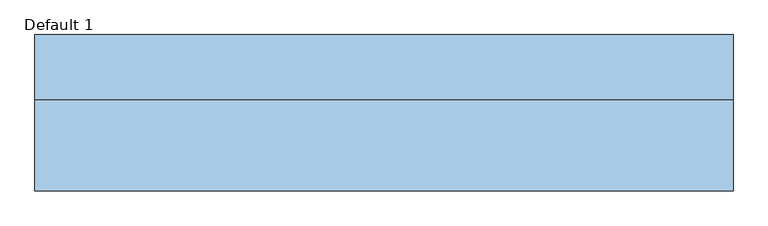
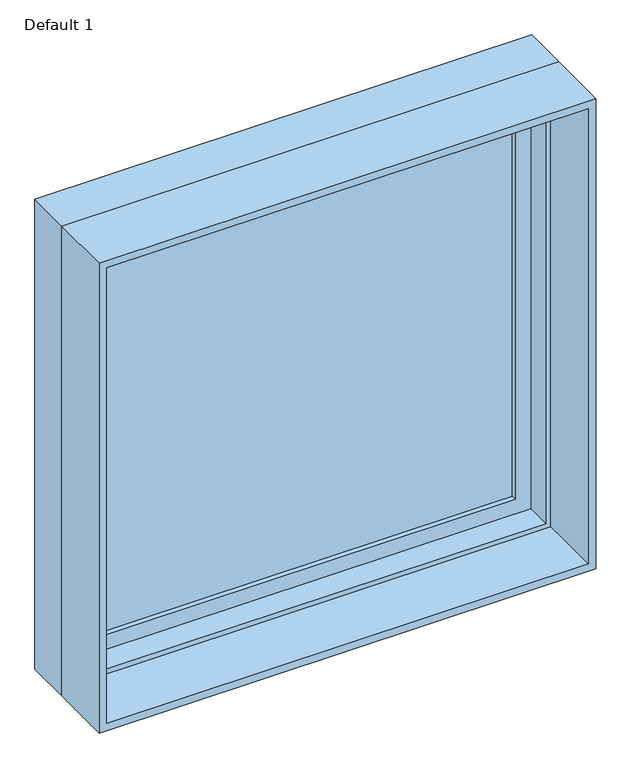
"""IFC4 building model written with IfcOpenShell, lengths in millimetres: window geometry, Planitar-Casement-Single_Left : Default 1."""

from ifc_helpers import new_model, si_unit, frame, origin, place, context, project, spatial, polyline, outline, extrude, faceted_brep, source, transform, mapped, element, save


def default_1_a765227e(model_context):
    return source(origin(), model_context, "Body", "SolidModel", [
        extrude(outline(polyline([(539.75, 127.0), (539.75, 120.65), (-539.75, 120.65), (-539.75, 127.0), (539.75, 127.0)])), frame((0.0, 0.0, 984.25), z_axis=(0.0, 0.0, 1.0), x_axis=(1.0, 0.0, 0.0)), (0.0, 0.0, 1.0), 1079.5),
        extrude(outline(polyline([(-539.75, 107.95), (-539.75, 114.3), (539.75, 114.3), (539.75, 107.95), (-539.75, 107.95)])), frame((0.0, 0.0, 984.25), z_axis=(0.0, 0.0, 1.0), x_axis=(1.0, 0.0, 0.0)), (0.0, 0.0, 1.0), 1079.5),
        extrude(outline(polyline([(2120.9, -596.9), (927.1, -596.9), (927.1, 596.9), (2120.9, 596.9), (2120.9, -596.9)]), holes=[polyline([(2063.75, 539.75), (984.25, 539.75), (984.25, -539.75), (2063.75, -539.75), (2063.75, 539.75)])]), frame((0.0, 95.25, 0.0), z_axis=(0.0, 1.0, 0.0), x_axis=(0.0, 0.0, 1.0)), (0.0, 0.0, 1.0), 44.45),
        extrude(outline(polyline([(2133.6, -609.6), (914.4, -609.6), (914.4, 609.6), (2133.6, 609.6), (2133.6, -609.6)]), holes=[polyline([(2114.55, 590.55), (933.45, 590.55), (933.45, -590.55), (2114.55, -590.55), (2114.55, 590.55)])]), frame((0.0, -127.0, 0.0), z_axis=(0.0, 1.0, 0.0), x_axis=(0.0, 0.0, 1.0)), (0.0, 0.0, 1.0), 158.75),
        faceted_brep([(577.85, 95.25, 2101.85), (577.85, 31.75, 2101.85), (-577.85, 31.75, 2101.85), (-577.85, 95.25, 2101.85), (596.9, 146.05, 2120.9), (596.9, 95.25, 2120.9), (-596.9, 95.25, 2120.9), (-596.9, 146.05, 2120.9), (609.6, 31.75, 2133.6), (609.6, 146.05, 2133.6), (-609.6, 146.05, 2133.6), (-609.6, 31.75, 2133.6), (-577.85, 31.75, 946.15), (-577.85, 95.25, 946.15), (-596.9, 95.25, 927.1), (-596.9, 146.05, 927.1), (-609.6, 146.05, 914.4), (-609.6, 31.75, 914.4), (577.85, 31.75, 946.15), (577.85, 95.25, 946.15), (596.9, 95.25, 927.1), (596.9, 146.05, 927.1), (609.6, 146.05, 914.4), (609.6, 31.75, 914.4)], [[[0, 1, 2, 3]], [[4, 5, 6, 7]], [[8, 9, 10, 11]], [[3, 2, 12, 13]], [[7, 6, 14, 15]], [[11, 10, 16, 17]], [[13, 12, 18, 19]], [[15, 14, 20, 21]], [[17, 16, 22, 23]], [[11, 17, 23, 8], [1, 18, 12, 2]], [[19, 18, 1, 0]], [[5, 20, 14, 6], [3, 13, 19, 0]], [[21, 20, 5, 4]], [[23, 22, 9, 8]], [[9, 22, 16, 10], [7, 15, 21, 4]]]),
    ])


if __name__ == "__main__":
    model = new_model("IFC4")
    model_context = context("Model", 3, world=origin())
    ifc_project = project(units=[si_unit("LENGTHUNIT", "METRE", prefix="MILLI")], contexts=[model_context])
    site = spatial("IfcSite", under=ifc_project)
    building = spatial("IfcBuilding", under=site)
    placement = place(None, origin())
    default_1_shape = default_1_a765227e(model_context)
    element("IfcWindow", 1, ObjectType="Planitar-Casement-Single_Left : Default 1", at=placement, inside=building, context=model_context, shape_type="MappedRepresentation", body=[
        mapped(default_1_shape, transform((0.0, 0.0, 0.0), x_axis=(1.0, 0.0, 0.0), y_axis=(0.0, 1.0, 0.0), z_axis=(0.0, 0.0, 1.0))),
    ])
    save(model, "model.ifc")
